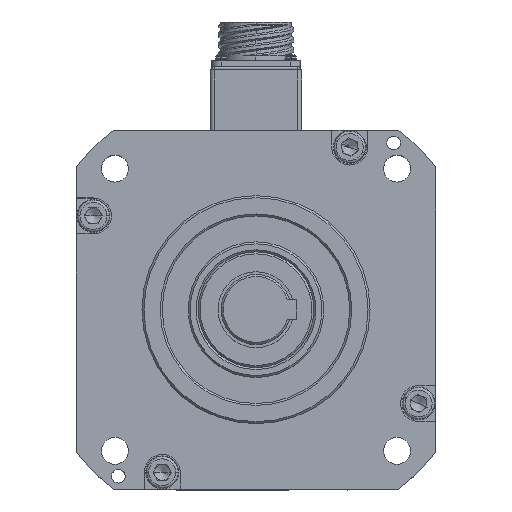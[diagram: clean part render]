
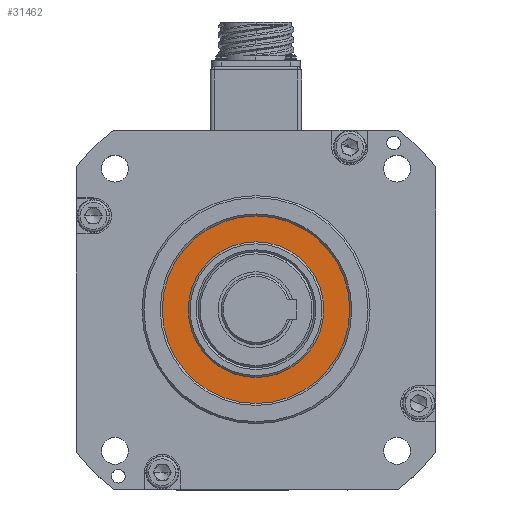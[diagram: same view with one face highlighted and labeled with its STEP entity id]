
A CAD part, top view. The second image highlights one B-rep face of the part: STEP entity #31462.
In plain terms, the highlighted planar face has unit normal (0, 0, 1).
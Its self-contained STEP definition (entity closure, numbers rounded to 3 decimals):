
#1809 = DIRECTION ( 'NONE',  ( 0., -1., 0. ) ) ;
#5479 = ORIENTED_EDGE ( 'NONE', *, *, #91140, .F. ) ;
#6994 = DIRECTION ( 'NONE',  ( 0., -1., 0. ) ) ;
#7583 = FACE_OUTER_BOUND ( 'NONE', #91825, .T. ) ;
#14145 = AXIS2_PLACEMENT_3D ( 'NONE', #91875, #44835, #99815 ) ;
#16230 = VERTEX_POINT ( 'NONE', #90517 ) ;
#27097 = EDGE_CURVE ( 'NONE', #16230, #28669, #50573, .T. ) ;
#28358 = DIRECTION ( 'NONE',  ( 0., 0., 1. ) ) ;
#28669 = VERTEX_POINT ( 'NONE', #64531 ) ;
#29847 = ORIENTED_EDGE ( 'NONE', *, *, #27097, .F. ) ;
#30515 = VERTEX_POINT ( 'NONE', #63196 ) ;
#30792 = FACE_BOUND ( 'NONE', #35106, .T. ) ;
#31462 = ADVANCED_FACE ( 'NONE', ( #30792, #7583 ), #100106, .T. ) ;
#35106 = EDGE_LOOP ( 'NONE', ( #5479, #29847 ) ) ;
#37931 = CARTESIAN_POINT ( 'NONE',  ( 103.777, 118.922, 177.822 ) ) ;
#39854 = ORIENTED_EDGE ( 'NONE', *, *, #100997, .T. ) ;
#42100 = EDGE_CURVE ( 'NONE', #98093, #30515, #78810, .T. ) ;
#44835 = DIRECTION ( 'NONE',  ( 0., 0., 1. ) ) ;
#48627 = DIRECTION ( 'NONE',  ( 0., 0., 1. ) ) ;
#50573 = CIRCLE ( 'NONE', #57332, 34. ) ;
#52536 = AXIS2_PLACEMENT_3D ( 'NONE', #95718, #48627, #1809 ) ;
#53678 = DIRECTION ( 'NONE',  ( 0., -1., 0. ) ) ;
#53826 = DIRECTION ( 'NONE',  ( 0., 0., 1. ) ) ;
#54914 = AXIS2_PLACEMENT_3D ( 'NONE', #37931, #100801, #53678 ) ;
#57332 = AXIS2_PLACEMENT_3D ( 'NONE', #100948, #53826, #6994 ) ;
#63196 = CARTESIAN_POINT ( 'NONE',  ( 103.777, 71.922, 177.822 ) ) ;
#63462 = AXIS2_PLACEMENT_3D ( 'NONE', #75320, #28358, #83221 ) ;
#64531 = CARTESIAN_POINT ( 'NONE',  ( 103.777, 152.922, 177.822 ) ) ;
#66511 = CIRCLE ( 'NONE', #14145, 47. ) ;
#74099 = ORIENTED_EDGE ( 'NONE', *, *, #42100, .T. ) ;
#75320 = CARTESIAN_POINT ( 'NONE',  ( 103.777, 118.922, 177.822 ) ) ;
#78810 = CIRCLE ( 'NONE', #52536, 47. ) ;
#81365 = CARTESIAN_POINT ( 'NONE',  ( 103.777, 165.922, 177.822 ) ) ;
#83221 = DIRECTION ( 'NONE',  ( 0., -1., 0. ) ) ;
#90517 = CARTESIAN_POINT ( 'NONE',  ( 103.777, 84.922, 177.822 ) ) ;
#91140 = EDGE_CURVE ( 'NONE', #28669, #16230, #99813, .T. ) ;
#91825 = EDGE_LOOP ( 'NONE', ( #74099, #39854 ) ) ;
#91875 = CARTESIAN_POINT ( 'NONE',  ( 103.777, 118.922, 177.822 ) ) ;
#95718 = CARTESIAN_POINT ( 'NONE',  ( 103.777, 118.922, 177.822 ) ) ;
#98093 = VERTEX_POINT ( 'NONE', #81365 ) ;
#99813 = CIRCLE ( 'NONE', #63462, 34. ) ;
#99815 = DIRECTION ( 'NONE',  ( 0., -1., 0. ) ) ;
#100106 = PLANE ( 'NONE',  #54914 ) ;
#100801 = DIRECTION ( 'NONE',  ( 0., 0., 1. ) ) ;
#100948 = CARTESIAN_POINT ( 'NONE',  ( 103.777, 118.922, 177.822 ) ) ;
#100997 = EDGE_CURVE ( 'NONE', #30515, #98093, #66511, .T. ) ;
